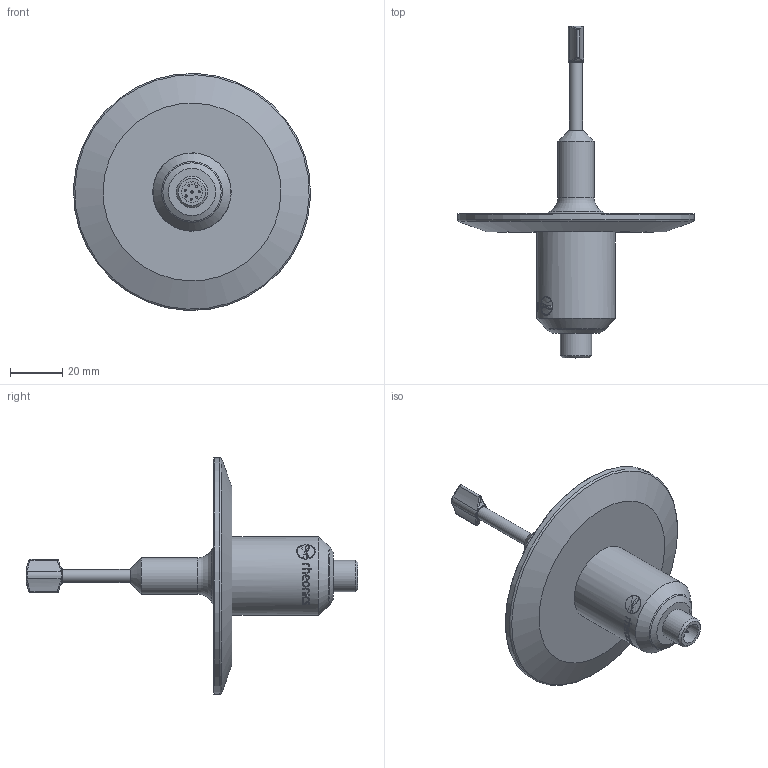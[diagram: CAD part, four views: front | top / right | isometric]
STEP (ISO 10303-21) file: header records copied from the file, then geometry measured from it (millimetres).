
FILE_DESCRIPTION(/* description */ ('Unknown'),/* implementation_level */ '2;1');
FILE_NAME(/* name */ 'SRD-HS-X3-30T',/* time_stamp */ '2023-12-12T16:32:59-05:00',/* author */ ('Unknown'),/* organization */ ('Unknown'),/* preprocessor_version */ 'ST-DEVELOPER v16.7',/* originating_system */ 'Solid Edge',/* authorisation */ 'Unknown');
FILE_SCHEMA (('CONFIG_CONTROL_DESIGN'));
Length unit declared in the file: millimetre
Products named in the file (1): SRD-HS-X3-30T
Bounding box: 90.94 x 127.35 x 90.94 mm (x, y, z)
Volume: 71343.7 mm3; surface area: 20408.4 mm2
Topology: 1 solids, 1 shells, 206 faces, 516 edges, 325 vertices
Faces by surface type: bspline 93, cylinder 43, plane 36, cone 14, torus 12, sphere 8
Full cylindrical faces by diameter (mm): 0.8 x8, 5.019 x1, 8 x1, 12 x1, 13.9 x1, 30 x1, 91 x1
Entity records: 10765 total; most frequent: CARTESIAN_POINT 5327, ORIENTED_EDGE 902, DIRECTION 571, EDGE_CURVE 451, VERTEX_POINT 308, EDGE_LOOP 267, FACE_BOUND 267, AXIS2_PLACEMENT_3D 218
